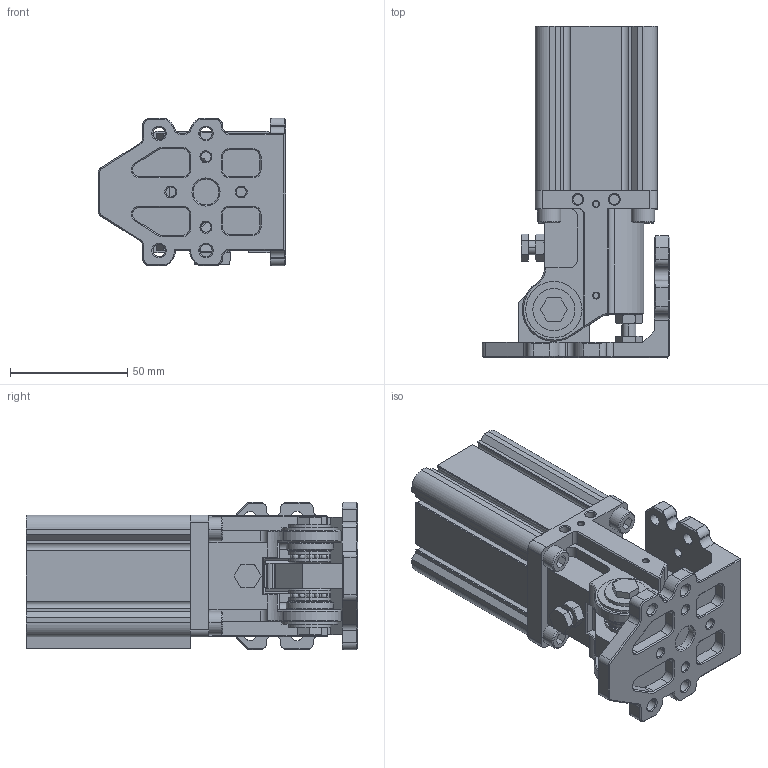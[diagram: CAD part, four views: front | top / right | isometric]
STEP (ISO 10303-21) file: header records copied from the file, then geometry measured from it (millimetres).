
FILE_DESCRIPTION(/* description */ (''),/* implementation_level */ '2;1');
FILE_NAME(/* name */ 'DHR2C-40M30PPV-ZG-LB.stp',/* time_stamp */ '2025-04-09T11:14:13+08:00',/* author */ (''),/* organization */ (''),/* preprocessor_version */ 'ST-DEVELOPER v15',/* originating_system */ 'SIEMENS PLM Software NX 10.0',/* authorisation */ '');
FILE_SCHEMA (('AP203_CONFIGURATION_CONTROLLED_3D_DESIGN_OF_MECHANICAL_PARTS_AND_ASSEMBLIES_MIM_LF { 1 0 10303 403 2 1 2}'));
Products named in the file (1): Admi00C8E5C0fdon
Bounding box: 80.08 x 141.57 x 63.01 mm (x, y, z)
Volume: 284052.5 mm3; surface area: 94559.8 mm2
Topology: 53 solids, 53 shells, 1204 faces, 2930 edges, 1790 vertices
Faces by surface type: plane 521, cylinder 336, cone 257, sphere 48, bspline 30, torus 12
Full cylindrical faces by diameter (mm): 6 x2, 8 x2, 10 x5, 12 x1, 18 x2, 20 x2, 24 x2, 41.8 x2
Entity records: 52252 total; most frequent: CARTESIAN_POINT 24191, DIRECTION 5955, ORIENTED_EDGE 5582, EDGE_CURVE 2791, AXIS2_PLACEMENT_3D 2176, VERTEX_POINT 1783, LINE 1603, VECTOR 1603
